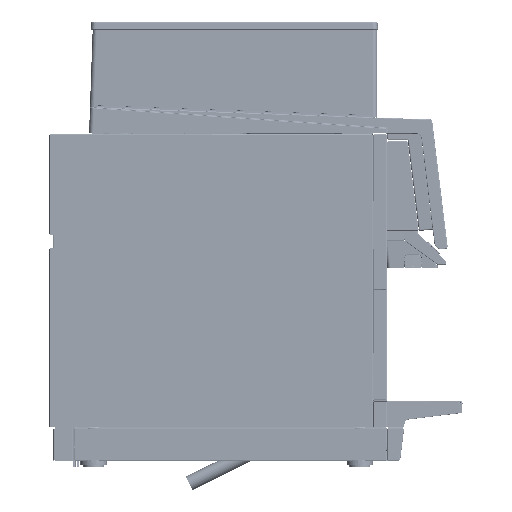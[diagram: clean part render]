
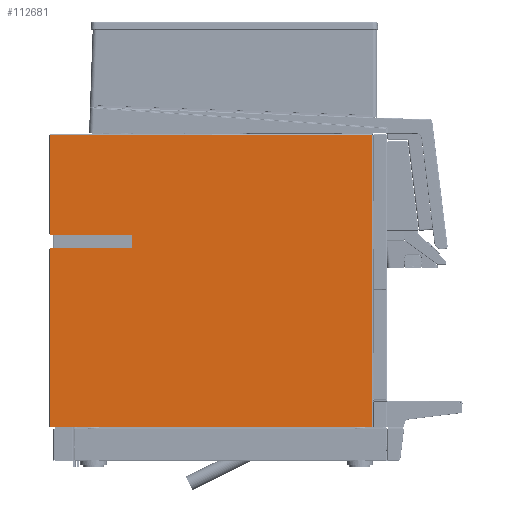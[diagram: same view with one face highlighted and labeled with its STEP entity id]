
A CAD part, left-side view. The second image highlights one B-rep face of the part: STEP entity #112681.
In plain terms, the highlighted planar face has unit normal (-1, 0, 0).
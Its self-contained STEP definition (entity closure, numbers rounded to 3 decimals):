
#5926=PLANE('',#123493);
#8563=CIRCLE('',#123494,0.5);
#8564=CIRCLE('',#123495,0.5);
#18540=ORIENTED_EDGE('',*,*,#42715,.F.);
#18541=ORIENTED_EDGE('',*,*,#42680,.F.);
#18542=ORIENTED_EDGE('',*,*,#42682,.F.);
#18543=ORIENTED_EDGE('',*,*,#42695,.F.);
#18544=ORIENTED_EDGE('',*,*,#42693,.F.);
#18545=ORIENTED_EDGE('',*,*,#42766,.T.);
#18546=ORIENTED_EDGE('',*,*,#42733,.T.);
#18547=ORIENTED_EDGE('',*,*,#42767,.F.);
#18548=ORIENTED_EDGE('',*,*,#42768,.T.);
#18549=ORIENTED_EDGE('',*,*,#42769,.F.);
#18550=ORIENTED_EDGE('',*,*,#42770,.T.);
#18551=ORIENTED_EDGE('',*,*,#42771,.T.);
#42680=EDGE_CURVE('',#92590,#92586,#61898,.T.);
#42682=EDGE_CURVE('',#92592,#92590,#61899,.T.);
#42693=EDGE_CURVE('',#92601,#92599,#61904,.T.);
#42695=EDGE_CURVE('',#92599,#92592,#61905,.T.);
#42715=EDGE_CURVE('',#92586,#92617,#61914,.T.);
#42733=EDGE_CURVE('',#92636,#92634,#61924,.T.);
#42766=EDGE_CURVE('',#92601,#92636,#61955,.T.);
#42767=EDGE_CURVE('',#92663,#92634,#8563,.T.);
#42768=EDGE_CURVE('',#92663,#92664,#61956,.T.);
#42769=EDGE_CURVE('',#92665,#92664,#8564,.T.);
#42770=EDGE_CURVE('',#92665,#92666,#61957,.T.);
#42771=EDGE_CURVE('',#92666,#92617,#61958,.T.);
#61898=LINE('',#174682,#72791);
#61899=LINE('',#174687,#72792);
#61904=LINE('',#174709,#72797);
#61905=LINE('',#174713,#72798);
#61914=LINE('',#174752,#72807);
#61924=LINE('',#174793,#72817);
#61955=LINE('',#174857,#72848);
#61956=LINE('',#174860,#72849);
#61957=LINE('',#174864,#72850);
#61958=LINE('',#174866,#72851);
#72791=VECTOR('',#139056,1000.);
#72792=VECTOR('',#139061,1000.);
#72797=VECTOR('',#139082,1000.);
#72798=VECTOR('',#139087,1000.);
#72807=VECTOR('',#139126,1000.);
#72817=VECTOR('',#139162,1000.);
#72848=VECTOR('',#139205,1000.);
#72849=VECTOR('',#139208,1000.);
#72850=VECTOR('',#139211,1000.);
#72851=VECTOR('',#139212,1000.);
#81295=EDGE_LOOP('',(#18540,#18541,#18542,#18543,#18544,#18545,#18546,#18547,
#18548,#18549,#18550,#18551));
#92586=VERTEX_POINT('',#174674);
#92590=VERTEX_POINT('',#174681);
#92592=VERTEX_POINT('',#174686);
#92599=VERTEX_POINT('',#174704);
#92601=VERTEX_POINT('',#174708);
#92617=VERTEX_POINT('',#174749);
#92634=VERTEX_POINT('',#174791);
#92636=VERTEX_POINT('',#174794);
#92663=VERTEX_POINT('',#174859);
#92664=VERTEX_POINT('',#174861);
#92665=VERTEX_POINT('',#174863);
#92666=VERTEX_POINT('',#174865);
#107483=FACE_BOUND('',#81295,.T.);
#112681=ADVANCED_FACE('',(#107483),#5926,.T.);
#123493=AXIS2_PLACEMENT_3D('',#174856,#139203,#139204);
#123494=AXIS2_PLACEMENT_3D('',#174858,#139206,#139207);
#123495=AXIS2_PLACEMENT_3D('',#174862,#139209,#139210);
#139056=DIRECTION('',(0.,1.,0.));
#139061=DIRECTION('',(0.,0.,-1.));
#139082=DIRECTION('',(0.,0.,1.));
#139087=DIRECTION('',(0.,-1.,0.));
#139126=DIRECTION('',(0.,0.,1.));
#139162=DIRECTION('',(0.,-1.,0.));
#139203=DIRECTION('',(-1.,0.,0.));
#139204=DIRECTION('',(0.,0.,1.));
#139205=DIRECTION('',(0.,0.,-1.));
#139206=DIRECTION('',(-1.,0.,0.));
#139207=DIRECTION('',(0.,-0.707,0.707));
#139208=DIRECTION('',(0.,0.,-1.));
#139209=DIRECTION('',(-1.,0.,0.));
#139210=DIRECTION('',(0.,-0.707,-0.707));
#139211=DIRECTION('',(0.,1.,0.));
#139212=DIRECTION('',(0.,0.,-1.));
#174674=CARTESIAN_POINT('',(-160.,582.264,-12.986));
#174681=CARTESIAN_POINT('',(-160.,114.664,-12.986));
#174682=CARTESIAN_POINT('',(-160.,114.664,-12.986));
#174686=CARTESIAN_POINT('',(-160.,114.664,410.614));
#174687=CARTESIAN_POINT('',(-160.,114.664,410.614));
#174704=CARTESIAN_POINT('',(-160.,582.264,410.614));
#174708=CARTESIAN_POINT('',(-160.,582.264,267.014));
#174709=CARTESIAN_POINT('',(-160.,582.264,267.014));
#174713=CARTESIAN_POINT('',(-160.,582.264,410.614));
#174749=CARTESIAN_POINT('',(-160.,582.264,244.614));
#174752=CARTESIAN_POINT('',(-160.,582.264,-12.986));
#174791=CARTESIAN_POINT('',(-160.,463.964,265.814));
#174793=CARTESIAN_POINT('',(-160.,582.264,265.814));
#174794=CARTESIAN_POINT('',(-160.,582.264,265.814));
#174856=CARTESIAN_POINT('',(-160.,113.464,-14.186));
#174857=CARTESIAN_POINT('',(-160.,582.264,267.014));
#174858=CARTESIAN_POINT('',(-160.,463.964,265.314));
#174859=CARTESIAN_POINT('',(-160.,463.464,265.314));
#174860=CARTESIAN_POINT('',(-160.,463.464,265.314));
#174861=CARTESIAN_POINT('',(-160.,463.464,246.314));
#174862=CARTESIAN_POINT('',(-160.,463.964,246.314));
#174863=CARTESIAN_POINT('',(-160.,463.964,245.814));
#174864=CARTESIAN_POINT('',(-160.,463.964,245.814));
#174865=CARTESIAN_POINT('',(-160.,582.264,245.814));
#174866=CARTESIAN_POINT('',(-160.,582.264,245.814));
